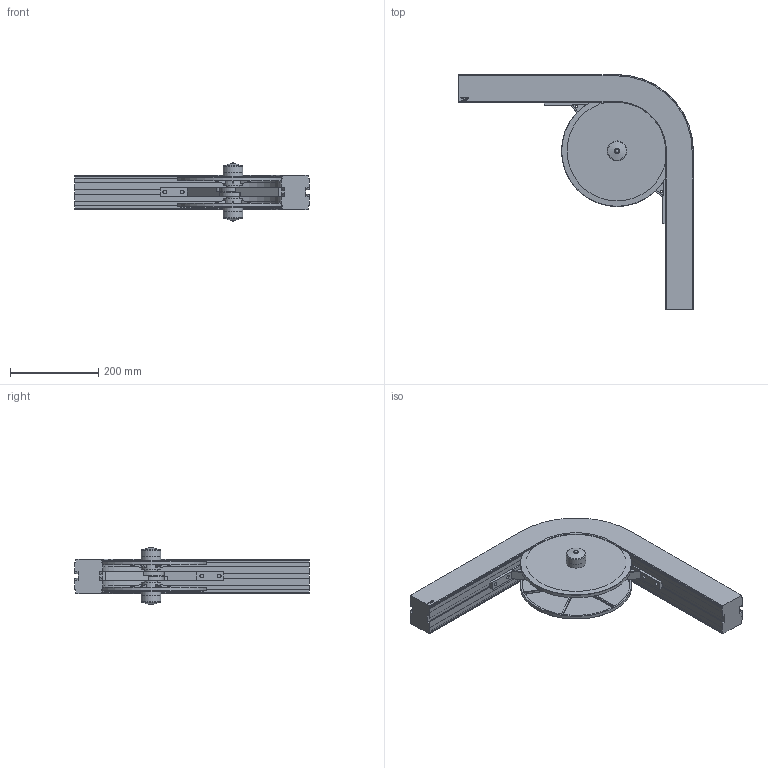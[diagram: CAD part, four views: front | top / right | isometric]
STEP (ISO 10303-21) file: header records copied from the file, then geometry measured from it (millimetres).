
FILE_DESCRIPTION((''),'2;1');
FILE_NAME('C:\Vault Klient\Projekt\Koncept konstruktion\Serie 620 Hjulkurva\620-5010.stp','2009-12-01T15:04:23',('Mathias'),(''),'Autodesk Inventor 2010','Autodesk Inventor 2010','');
FILE_SCHEMA(('CONFIG_CONTROL_DESIGN'));
Length unit declared in the file: millimetre
Products named in the file (5): 620-5010; 620-1000_02; 830-5026; 830-5027; FCWA-0413-025
Assembly tree (7 placements, depth 2):
  620-5010
    620-1000_02
    830-5026  x2
    830-5027  x2
    FCWA-0413-025  x2
Bounding box: 532 x 532 x 131.94 mm (x, y, z)
Volume: 4966624 mm3; surface area: 676349.8 mm2
Topology: 7 solids, 7 shells, 513 faces, 1344 edges, 868 vertices
Faces by surface type: plane 255, cylinder 120, bspline 88, cone 36, torus 10, sphere 4
Full cylindrical faces by diameter (mm): 6 x16, 29.5 x2, 30 x2, 34.5 x4, 41.3 x2, 45 x2, 50.3 x2, 252 x2
Entity records: 11810 total; most frequent: CARTESIAN_POINT 3615, ORIENTED_EDGE 1708, DIRECTION 1523, EDGE_CURVE 854, VERTEX_POINT 567, AXIS2_PLACEMENT_3D 511, VECTOR 501, LINE 501
